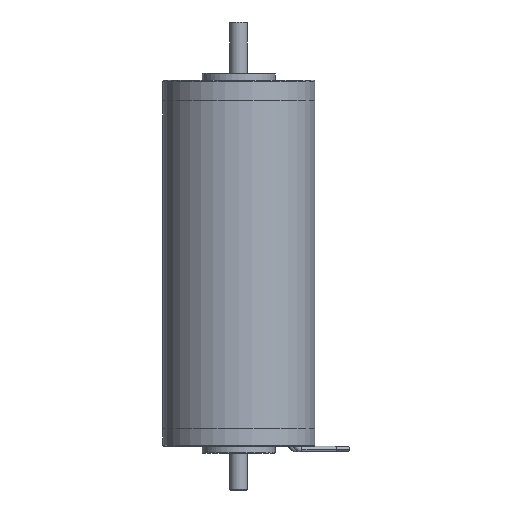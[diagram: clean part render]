
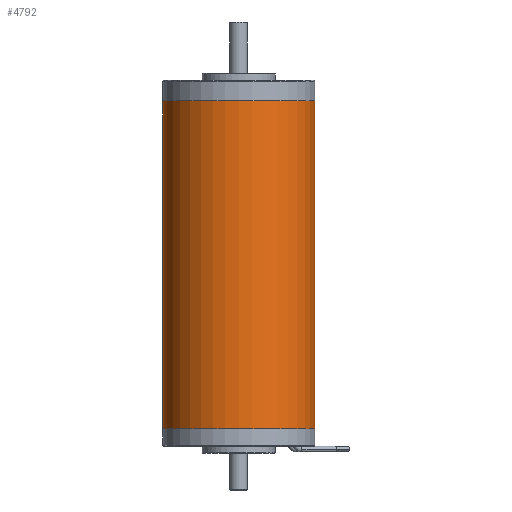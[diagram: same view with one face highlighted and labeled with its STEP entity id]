
A CAD part, front view. The second image highlights one B-rep face of the part: STEP entity #4792.
In plain terms, the highlighted cylindrical face has radius 26 mm (diameter 52 mm), a partial arc.
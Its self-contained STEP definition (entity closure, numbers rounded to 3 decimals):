
#616 = DIRECTION ( 'NONE',  ( 1., 0., 0. ) ) ;
#1023 = AXIS2_PLACEMENT_3D ( 'NONE', #11298, #11384, #4120 ) ;
#1169 = DIRECTION ( 'NONE',  ( 0., 0., 1. ) ) ;
#1307 = CARTESIAN_POINT ( 'NONE',  ( 26., 0., -119. ) ) ;
#1444 = DIRECTION ( 'NONE',  ( 0., 0., 1. ) ) ;
#1464 = EDGE_CURVE ( 'NONE', #4940, #3186, #3316, .T. ) ;
#1810 = EDGE_CURVE ( 'NONE', #11795, #14270, #3652, .T. ) ;
#1869 = CARTESIAN_POINT ( 'NONE',  ( 26., 0., -119. ) ) ;
#2922 = ORIENTED_EDGE ( 'NONE', *, *, #9242, .T. ) ;
#3186 = VERTEX_POINT ( 'NONE', #6470 ) ;
#3316 = LINE ( 'NONE', #1307, #4913 ) ;
#3652 = LINE ( 'NONE', #8126, #7756 ) ;
#4120 = DIRECTION ( 'NONE',  ( 1., 0., 0. ) ) ;
#4556 = AXIS2_PLACEMENT_3D ( 'NONE', #9091, #1444, #13548 ) ;
#4717 = ORIENTED_EDGE ( 'NONE', *, *, #12153, .F. ) ;
#4792 = ADVANCED_FACE ( 'NONE', ( #14163 ), #7638, .T. ) ;
#4913 = VECTOR ( 'NONE', #1169, 1000. ) ;
#4924 = DIRECTION ( 'NONE',  ( 0., 0., 1. ) ) ;
#4940 = VERTEX_POINT ( 'NONE', #1869 ) ;
#5811 = EDGE_LOOP ( 'NONE', ( #7112, #2922, #10397, #4717 ) ) ;
#6153 = CARTESIAN_POINT ( 'NONE',  ( -26., 0., -7. ) ) ;
#6470 = CARTESIAN_POINT ( 'NONE',  ( 26., 0., -7. ) ) ;
#7084 = CARTESIAN_POINT ( 'NONE',  ( -26., 0., -119. ) ) ;
#7112 = ORIENTED_EDGE ( 'NONE', *, *, #1810, .F. ) ;
#7638 = CYLINDRICAL_SURFACE ( 'NONE', #1023, 26. ) ;
#7756 = VECTOR ( 'NONE', #13542, 1000. ) ;
#7837 = CIRCLE ( 'NONE', #4556, 26. ) ;
#8126 = CARTESIAN_POINT ( 'NONE',  ( -26., 0., -119. ) ) ;
#9091 = CARTESIAN_POINT ( 'NONE',  ( 0., 0., -7. ) ) ;
#9242 = EDGE_CURVE ( 'NONE', #11795, #4940, #12129, .T. ) ;
#10397 = ORIENTED_EDGE ( 'NONE', *, *, #1464, .T. ) ;
#11194 = AXIS2_PLACEMENT_3D ( 'NONE', #11428, #4924, #616 ) ;
#11298 = CARTESIAN_POINT ( 'NONE',  ( 0., 0., -119. ) ) ;
#11384 = DIRECTION ( 'NONE',  ( 0., 0., 1. ) ) ;
#11428 = CARTESIAN_POINT ( 'NONE',  ( 0., 0., -119. ) ) ;
#11795 = VERTEX_POINT ( 'NONE', #7084 ) ;
#12129 = CIRCLE ( 'NONE', #11194, 26. ) ;
#12153 = EDGE_CURVE ( 'NONE', #14270, #3186, #7837, .T. ) ;
#13542 = DIRECTION ( 'NONE',  ( 0., 0., 1. ) ) ;
#13548 = DIRECTION ( 'NONE',  ( 1., 0., 0. ) ) ;
#14163 = FACE_OUTER_BOUND ( 'NONE', #5811, .T. ) ;
#14270 = VERTEX_POINT ( 'NONE', #6153 ) ;
